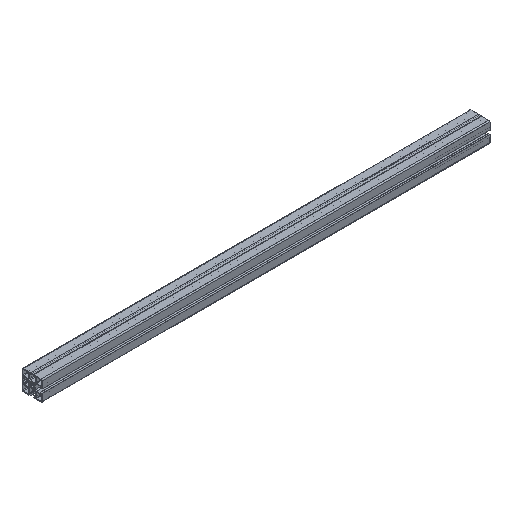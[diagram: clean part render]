
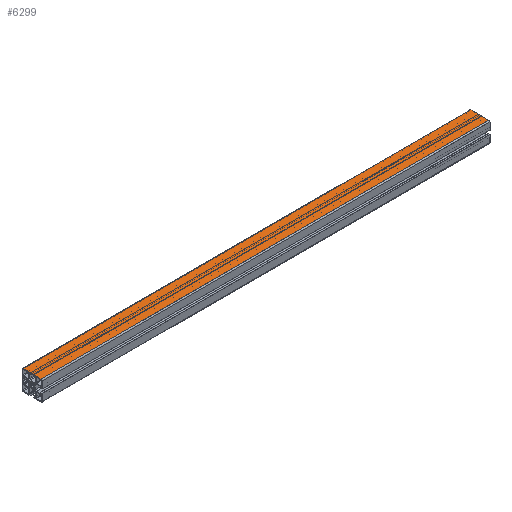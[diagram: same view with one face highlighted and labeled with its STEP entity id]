
A CAD part, isometric view. The second image highlights one B-rep face of the part: STEP entity #6299.
In plain terms, the highlighted planar face has unit normal (0, 0, 1).
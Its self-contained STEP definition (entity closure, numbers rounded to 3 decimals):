
#45 = EDGE_LOOP ( 'NONE', ( #2023, #3313, #1892, #1484 ) ) ;
#117 = DIRECTION ( 'NONE',  ( -1., 0., 0. ) ) ;
#197 = VECTOR ( 'NONE', #4991, 1000. ) ;
#220 = VERTEX_POINT ( 'NONE', #6979 ) ;
#907 = VECTOR ( 'NONE', #3739, 1000. ) ;
#1044 = VECTOR ( 'NONE', #1554, 1000. ) ;
#1442 = LINE ( 'NONE', #7066, #907 ) ;
#1484 = ORIENTED_EDGE ( 'NONE', *, *, #6596, .T. ) ;
#1510 = DIRECTION ( 'NONE',  ( 0., 0., -1. ) ) ;
#1554 = DIRECTION ( 'NONE',  ( 0., -1., 0. ) ) ;
#1892 = ORIENTED_EDGE ( 'NONE', *, *, #4656, .F. ) ;
#2000 = DIRECTION ( 'NONE',  ( -1., 0., 0. ) ) ;
#2023 = ORIENTED_EDGE ( 'NONE', *, *, #5713, .T. ) ;
#2148 = LINE ( 'NONE', #4924, #197 ) ;
#2256 = LINE ( 'NONE', #7096, #1044 ) ;
#2395 = CARTESIAN_POINT ( 'NONE',  ( 0., -20., 22.5 ) ) ;
#2837 = VERTEX_POINT ( 'NONE', #2395 ) ;
#3313 = ORIENTED_EDGE ( 'NONE', *, *, #4752, .F. ) ;
#3739 = DIRECTION ( 'NONE',  ( 0., -1., 0. ) ) ;
#3863 = FACE_OUTER_BOUND ( 'NONE', #45, .T. ) ;
#4309 = CARTESIAN_POINT ( 'NONE',  ( 1000., 20., 22.5 ) ) ;
#4492 = VECTOR ( 'NONE', #117, 1000. ) ;
#4656 = EDGE_CURVE ( 'NONE', #5651, #6844, #1442, .T. ) ;
#4715 = AXIS2_PLACEMENT_3D ( 'NONE', #4309, #1510, #2000 ) ;
#4752 = EDGE_CURVE ( 'NONE', #6844, #2837, #2148, .T. ) ;
#4924 = CARTESIAN_POINT ( 'NONE',  ( 1000., -20., 22.5 ) ) ;
#4991 = DIRECTION ( 'NONE',  ( -1., 0., 0. ) ) ;
#5063 = CARTESIAN_POINT ( 'NONE',  ( 1000., 20., 22.5 ) ) ;
#5535 = PLANE ( 'NONE',  #4715 ) ;
#5605 = CARTESIAN_POINT ( 'NONE',  ( 1000., 20., 22.5 ) ) ;
#5651 = VERTEX_POINT ( 'NONE', #5063 ) ;
#5713 = EDGE_CURVE ( 'NONE', #220, #2837, #2256, .T. ) ;
#6199 = LINE ( 'NONE', #5605, #4492 ) ;
#6222 = CARTESIAN_POINT ( 'NONE',  ( 1000., -20., 22.5 ) ) ;
#6299 = ADVANCED_FACE ( 'NONE', ( #3863 ), #5535, .F. ) ;
#6596 = EDGE_CURVE ( 'NONE', #5651, #220, #6199, .T. ) ;
#6844 = VERTEX_POINT ( 'NONE', #6222 ) ;
#6979 = CARTESIAN_POINT ( 'NONE',  ( 0., 20., 22.5 ) ) ;
#7066 = CARTESIAN_POINT ( 'NONE',  ( 1000., 20., 22.5 ) ) ;
#7096 = CARTESIAN_POINT ( 'NONE',  ( 0., 20., 22.5 ) ) ;
